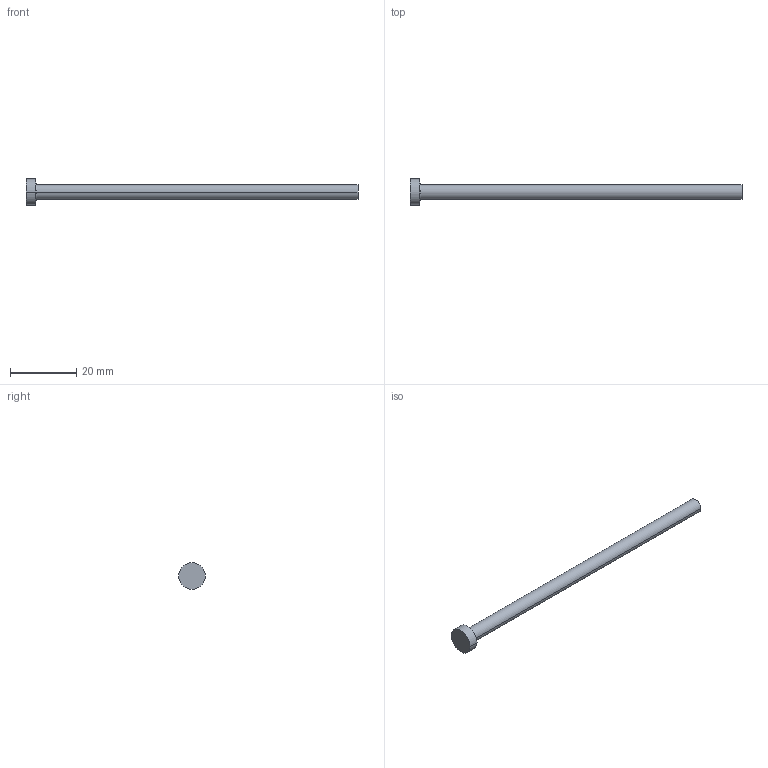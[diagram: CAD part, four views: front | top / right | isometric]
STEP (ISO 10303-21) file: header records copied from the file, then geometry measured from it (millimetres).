
FILE_DESCRIPTION (( 'STEP AP214' ), '1' );
FILE_NAME ('A-4,5x100.STEP', '2020-05-29T10:24:14', ( 'August' ), ( '' ), 'SwSTEP 2.0', 'SolidWorks 2018', '' );
FILE_SCHEMA (( 'AUTOMOTIVE_DESIGN' ));
Length unit declared in the file: millimetre
Products named in the file (1): A-4,5x100
Bounding box: 100 x 8 x 8 mm (x, y, z)
Volume: 1693.8 mm3; surface area: 1545.5 mm2
Topology: 1 solids, 1 shells, 9 faces, 16 edges, 10 vertices
Faces by surface type: cylinder 4, plane 3, torus 2
Entity records: 260 total; most frequent: DIRECTION 48, CARTESIAN_POINT 36, ORIENTED_EDGE 32, AXIS2_PLACEMENT_3D 22, EDGE_CURVE 16, CIRCLE 12, EDGE_LOOP 10, VERTEX_POINT 10
